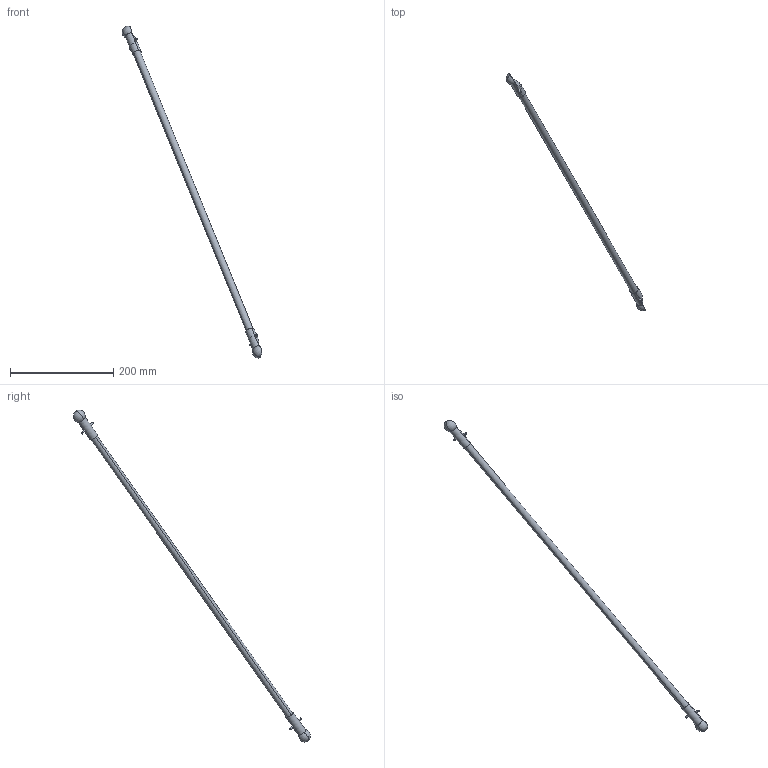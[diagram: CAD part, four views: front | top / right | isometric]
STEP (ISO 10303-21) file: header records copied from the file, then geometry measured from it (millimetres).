
FILE_DESCRIPTION (( 'STEP AP214' ), '1' );
FILE_NAME ('IRB360_X-1130-STD-3D_rev03_LA3_2_CAD.STEP', '2023-12-04T07:23:51', ( '' ), ( '' ), 'SwSTEP 2.0', 'SolidWorks 2022', '' );
FILE_SCHEMA (( 'AUTOMOTIVE_DESIGN' ));
Length unit declared in the file: millimetre
Products named in the file (1): IRB360_X-1130-STD-3D_rev03_LA3_2_CAD
Bounding box: 270.53 x 459.71 x 644.42 mm (x, y, z)
Volume: 136500.3 mm3; surface area: 41260.7 mm2
Topology: 5 solids, 5 shells, 40 faces, 90 edges, 54 vertices
Faces by surface type: cylinder 12, plane 12, sphere 8, cone 8
Entity records: 1090 total; most frequent: CARTESIAN_POINT 195, DIRECTION 192, ORIENTED_EDGE 148, AXIS2_PLACEMENT_3D 83, EDGE_CURVE 74, VERTEX_POINT 46, EDGE_LOOP 42, CIRCLE 42
